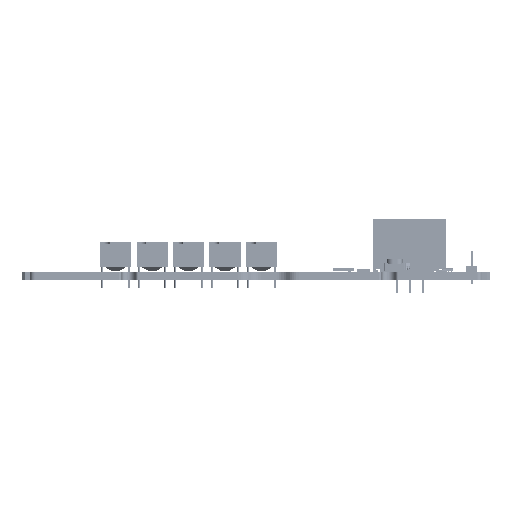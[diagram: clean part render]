
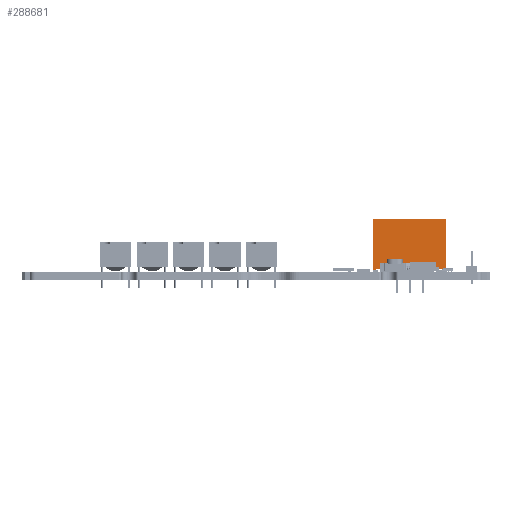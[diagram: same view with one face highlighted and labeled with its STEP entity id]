
A CAD part, front view. The second image highlights one B-rep face of the part: STEP entity #288681.
In plain terms, the highlighted planar face has unit normal (0, -1, 0).
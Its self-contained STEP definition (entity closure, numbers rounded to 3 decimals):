
#288606 = VERTEX_POINT('',#288607);
#288607 = CARTESIAN_POINT('',(80.56,58.09,
    0.));
#288624 = VERTEX_POINT('',#288625);
#288625 = CARTESIAN_POINT('',(81.06,58.09,
    0.));
#288631 = EDGE_CURVE('',#288606,#288624,#288632,.T.);
#288632 = LINE('',#288633,#288634);
#288633 = CARTESIAN_POINT('',(81.06,58.09,
    0.));
#288634 = VECTOR('',#288635,1.);
#288635 = DIRECTION('',(1.,0.,0.));
#288648 = VERTEX_POINT('',#288649);
#288649 = CARTESIAN_POINT('',(67.06,58.09,
    0.));
#288655 = EDGE_CURVE('',#288656,#288648,#288658,.T.);
#288656 = VERTEX_POINT('',#288657);
#288657 = CARTESIAN_POINT('',(67.06,58.09,
    10.1));
#288658 = LINE('',#288659,#288660);
#288659 = CARTESIAN_POINT('',(67.06,58.09,
    10.1));
#288660 = VECTOR('',#288661,1.);
#288661 = DIRECTION('',(0.,0.,-1.));
#288681 = ADVANCED_FACE('',(#288682),#288730,.F.);
#288682 = FACE_BOUND('',#288683,.T.);
#288683 = EDGE_LOOP('',(#288684,#288694,#288700,#288701,#288709,#288715,
    #288716,#288724));
#288684 = ORIENTED_EDGE('',*,*,#288685,.T.);
#288685 = EDGE_CURVE('',#288686,#288688,#288690,.T.);
#288686 = VERTEX_POINT('',#288687);
#288687 = CARTESIAN_POINT('',(67.56,58.09,
    0.5));
#288688 = VERTEX_POINT('',#288689);
#288689 = CARTESIAN_POINT('',(80.56,58.09,
    0.5));
#288690 = LINE('',#288691,#288692);
#288691 = CARTESIAN_POINT('',(80.56,58.09,
    0.5));
#288692 = VECTOR('',#288693,1.);
#288693 = DIRECTION('',(1.,0.,0.));
#288694 = ORIENTED_EDGE('',*,*,#288695,.T.);
#288695 = EDGE_CURVE('',#288688,#288606,#288696,.T.);
#288696 = LINE('',#288697,#288698);
#288697 = CARTESIAN_POINT('',(80.56,58.09,
    0.));
#288698 = VECTOR('',#288699,1.);
#288699 = DIRECTION('',(0.,0.,-1.));
#288700 = ORIENTED_EDGE('',*,*,#288631,.T.);
#288701 = ORIENTED_EDGE('',*,*,#288702,.F.);
#288702 = EDGE_CURVE('',#288703,#288624,#288705,.T.);
#288703 = VERTEX_POINT('',#288704);
#288704 = CARTESIAN_POINT('',(81.06,58.09,
    10.1));
#288705 = LINE('',#288706,#288707);
#288706 = CARTESIAN_POINT('',(81.06,58.09,
    10.1));
#288707 = VECTOR('',#288708,1.);
#288708 = DIRECTION('',(0.,0.,-1.));
#288709 = ORIENTED_EDGE('',*,*,#288710,.F.);
#288710 = EDGE_CURVE('',#288656,#288703,#288711,.T.);
#288711 = LINE('',#288712,#288713);
#288712 = CARTESIAN_POINT('',(81.06,58.09,
    10.1));
#288713 = VECTOR('',#288714,1.);
#288714 = DIRECTION('',(1.,0.,0.));
#288715 = ORIENTED_EDGE('',*,*,#288655,.T.);
#288716 = ORIENTED_EDGE('',*,*,#288717,.T.);
#288717 = EDGE_CURVE('',#288648,#288718,#288720,.T.);
#288718 = VERTEX_POINT('',#288719);
#288719 = CARTESIAN_POINT('',(67.56,58.09,
    0.));
#288720 = LINE('',#288721,#288722);
#288721 = CARTESIAN_POINT('',(81.06,58.09,
    0.));
#288722 = VECTOR('',#288723,1.);
#288723 = DIRECTION('',(1.,0.,0.));
#288724 = ORIENTED_EDGE('',*,*,#288725,.T.);
#288725 = EDGE_CURVE('',#288718,#288686,#288726,.T.);
#288726 = LINE('',#288727,#288728);
#288727 = CARTESIAN_POINT('',(67.56,58.09,
    0.));
#288728 = VECTOR('',#288729,1.);
#288729 = DIRECTION('',(0.,0.,1.));
#288730 = PLANE('',#288731);
#288731 = AXIS2_PLACEMENT_3D('',#288732,#288733,#288734);
#288732 = CARTESIAN_POINT('',(81.06,58.09,
    10.1));
#288733 = DIRECTION('',(0.,1.,0.));
#288734 = DIRECTION('',(-1.,0.,0.));
